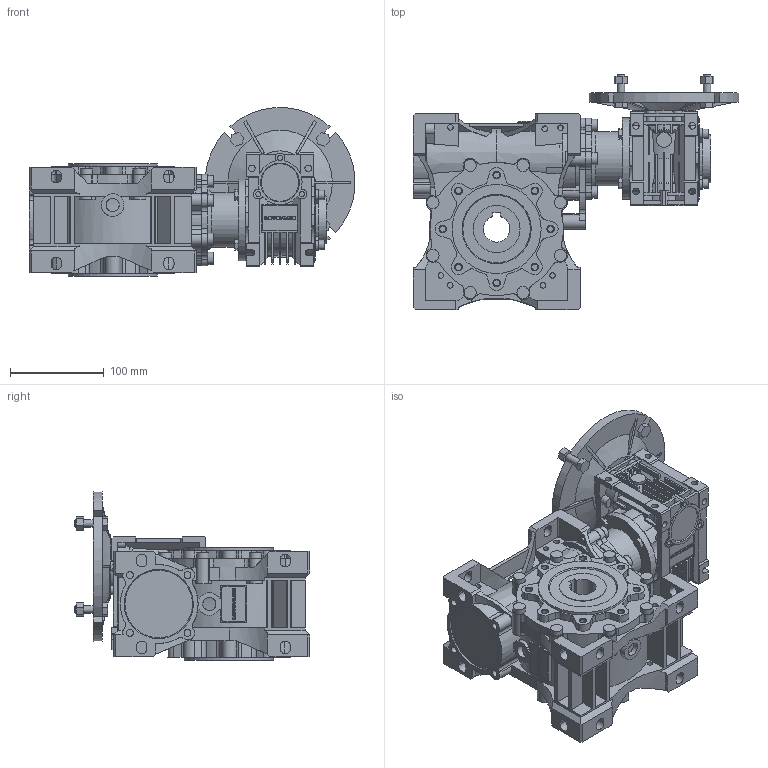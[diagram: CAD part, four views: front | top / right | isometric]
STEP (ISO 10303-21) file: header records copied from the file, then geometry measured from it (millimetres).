
FILE_DESCRIPTION(/* description */ ('STEP AP214'),/* implementation_level */ '2;1');
FILE_NAME(/* name */ 'NMRVP-NMRVP 040-075 100 (10x10) VS2 160x14 18 NO 28 NO NO - - NO - - - NO NO - --(--------)',/* time_stamp */ '2024-10-24T11:21:53+02:00',/* author */ ('License CC BY-ND 4.0'),/* organization */ ('CADENAS'),/* preprocessor_version */ 'ST-DEVELOPER v19.3',/* originating_system */ 'PARTsolutions',/* authorisation */ ' ');
FILE_SCHEMA (('AUTOMOTIVE_DESIGN {1 0 10303 214 3 1 1}'));
Products named in the file (11): NMRVP-NMRVP 040-075 100 (10x10) VS2 160x14 18 NO 28 NO NO - - NO - - 
- NO NO - --(--------); W.075.01.M; 075-28 (120); W.075.14.24.M-p; 040-075-TRA; W.040.01.M; 040-18 (78); VB 040-14 (14)-p; 4071 B5; Corona 40-p; 75-50
Assembly tree (10 placements, depth 2):
  NMRVP-NMRVP 040-075 100 (10x10) VS2 160x14 18 NO 28 NO NO - - NO - - 
- NO NO - --(--------)
    W.075.01.M
    075-28 (120)
    W.075.14.24.M-p
    040-075-TRA
    W.040.01.M
    040-18 (78)
    VB 040-14 (14)-p
    4071 B5
    Corona 40-p
    75-50
Bounding box: 347.24 x 251 x 179.74 mm (x, y, z)
Volume: 3648387.3 mm3; surface area: 593947.6 mm2
Topology: 10 solids, 16 shells, 2260 faces, 6100 edges, 4011 vertices
Faces by surface type: plane 1456, cylinder 708, cone 92, torus 4
Full cylindrical faces by diameter (mm): 4.917 x8, 5.55 x3, 6 x14, 6.647 x16, 7 x6, 7.26 x12, 8 x8, 10 x11, 10.8 x4, 11 x6, 13 x14, 14 x3, 16 x1, 23 x2, 24 x1, 28 x1, 29 x1, 30 x2, 31 x1, 35 x1, 36 x1, 40 x2, 42 x1, 47 x1, 48 x1, 50 x3, 58 x1, 60 x3, 67.5 x1, 68 x3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
Entity records: 86061 total; most frequent: CARTESIAN_POINT 13270, DIRECTION 11903, ORIENTED_EDGE 11762, EDGE_CURVE 5881, AXIS2_PLACEMENT_3D 4062, VERTEX_POINT 3982, LINE 3779, VECTOR 3779
